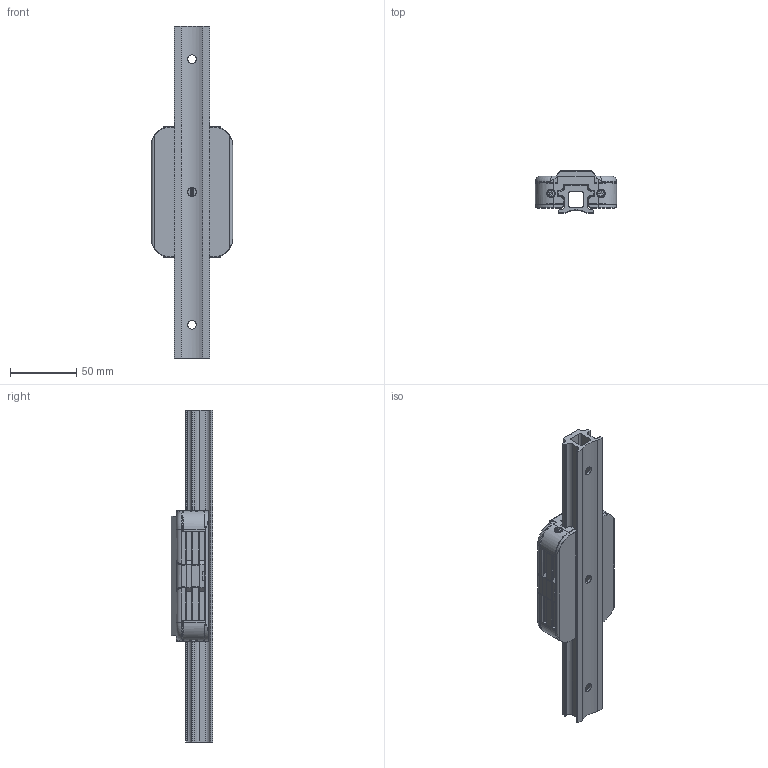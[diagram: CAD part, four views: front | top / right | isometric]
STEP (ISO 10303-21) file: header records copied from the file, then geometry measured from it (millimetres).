
FILE_DESCRIPTION(/* description */ (''),/* implementation_level */ '2;1');
FILE_NAME(/* name */ '\\server2k12\Disegni CAD\Cad Library\3D - STP\Cars\4Race\4100-F.stp',/* time_stamp */ '2019-12-10T13:49:00+01:00',/* author */ ('gianni'),/* organization */ (''),/* preprocessor_version */ 'ST-DEVELOPER v16.5',/* originating_system */ 'Autodesk Inventor 2017',/* authorisation */ '');
FILE_SCHEMA (('CONFIG_CONTROL_DESIGN'));
Length unit declared in the file: millimetre
Products named in the file (1): 19121006
Bounding box: 61.2 x 31.5 x 250 mm (x, y, z)
Volume: 169770.9 mm3; surface area: 67567.2 mm2
Topology: 1 solids, 1 shells, 953 faces, 2514 edges, 1530 vertices
Faces by surface type: cylinder 397, plane 285, torus 124, bspline 98, sphere 38, cone 11
Full cylindrical faces by diameter (mm): 5 x2, 5.5 x4, 6.4 x4, 6.5 x6
Entity records: 33271 total; most frequent: CARTESIAN_POINT 10393, ORIENTED_EDGE 4918, DIRECTION 4737, EDGE_CURVE 2451, AXIS2_PLACEMENT_3D 1834, VERTEX_POINT 1512, LINE 1069, VECTOR 1069
